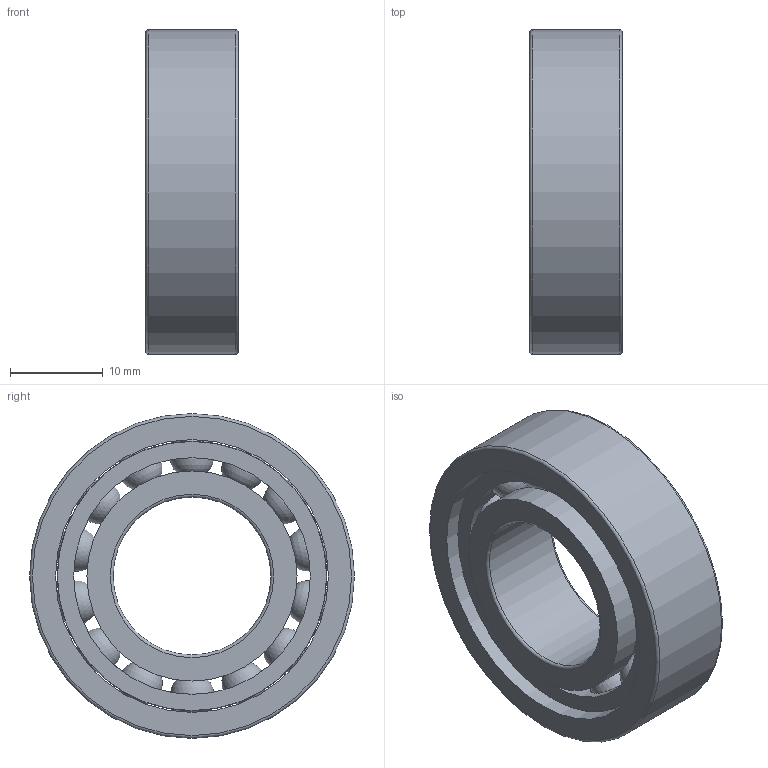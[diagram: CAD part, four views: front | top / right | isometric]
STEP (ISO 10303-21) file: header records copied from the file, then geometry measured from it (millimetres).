
FILE_DESCRIPTION(/* description */ (''),/* implementation_level */ '2;1');
FILE_NAME(/* name */ 'SM_6003_TA.step',/* time_stamp */ '2013-03-11T11:34:12+01:00',/* author */ ('Marian'),/* organization */ ('GMN'),/* preprocessor_version */ 'ST-DEVELOPER v11',/* originating_system */ 'SIEMENS UGS NX 6.0',/* authorisation */ '');
FILE_SCHEMA (('CONFIG_CONTROL_DESIGN'));
Length unit declared in the file: millimetre
Products named in the file (1): SM_6003_TA
Bounding box: 10 x 35 x 35 mm (x, y, z)
Volume: 5460.4 mm3; surface area: 6469.9 mm2
Topology: 17 solids, 17 shells, 48 faces, 122 edges, 78 vertices
Faces by surface type: cylinder 21, sphere 14, torus 6, plane 6, cone 1
Full cylindrical faces by diameter (mm): 4.962 x14, 17 x1, 22.65 x2, 25.512 x1, 29 x1, 29.4 x1, 35 x1
Entity records: 2654 total; most frequent: CARTESIAN_POINT 1755, DIRECTION 138, FACE_BOUND 110, EDGE_LOOP 96, ORIENTED_EDGE 96, AXIS2_PLACEMENT_3D 69, VERTEX_POINT 62, EDGE_CURVE 48
